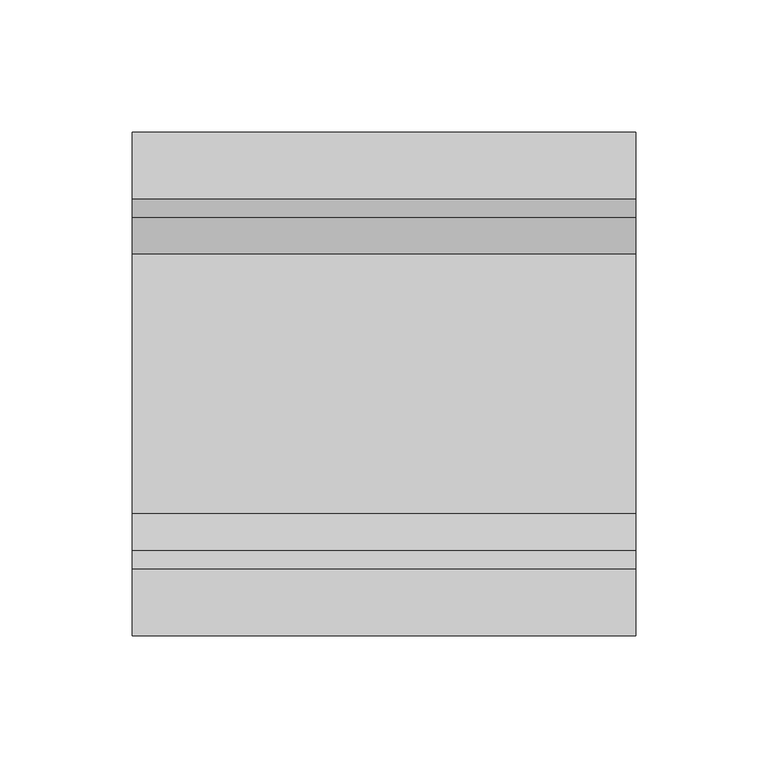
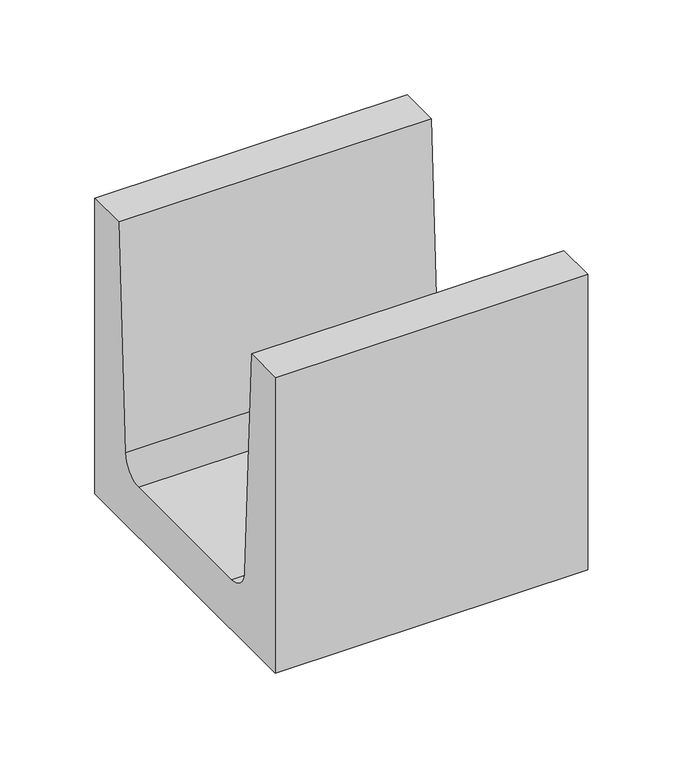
"""IFC4 building model written with IfcOpenShell, lengths in millimetres: proxy geometry, Bloco de Concreto - Meia Canaleta : Família 20 x 40 - Classe A."""

from ifc_helpers import new_model, si_unit, point, frame, frame_2d, origin, place, context, project, spatial, polyline, circle_curve, trimmed, segment, composite_curve, outline, extrude, source, transform, mapped, element, save


def generic_models_a9bd6234(model_context):
    return source(origin(), model_context, "Body", "SweptSolid", [
        extrude(outline(composite_curve([segment(polyline([(95.0, 0.0), (-95.0, 0.0), (-95.0, 190.0), (-70.0, 190.0), (-63.0, 46.1466668)]), True, "CONTINUOUS"), segment(trimmed(circle_curve(frame_2d((-48.8533332, 46.1466668)), 14.1466668), [point((-63.0, 46.1466668))], [point((-48.8533332, 32.0))], True, "CARTESIAN"), True, "CONTINUOUS"), segment(polyline([(-48.8533332, 32.0), (49.0277456, 32.0)]), True, "CONTINUOUS"), segment(trimmed(circle_curve(frame_2d((49.0277456, 45.9722544)), 13.9722544), [point((49.0277456, 32.0))], [point((63.0, 45.9722544))], True, "CARTESIAN"), True, "CONTINUOUS"), segment(polyline([(63.0, 45.9722544), (70.0, 190.0), (95.0, 190.0), (95.0, 0.0)]), True, "CONTINUOUS")], self_intersect=False)), frame((-95.0, 0.0, 0.0), z_axis=(1.0, 0.0, 0.0), x_axis=(0.0, 1.0, 0.0)), (0.0, 0.0, 1.0), 190.0),
    ])


if __name__ == "__main__":
    model = new_model("IFC4")
    model_context = context("Model", 3, world=origin())
    ifc_project = project(units=[si_unit("LENGTHUNIT", "METRE", prefix="MILLI")], contexts=[model_context])
    site = spatial("IfcSite", under=ifc_project)
    building = spatial("IfcBuilding", under=site)
    placement = place(None, origin())
    generic_models_shape = generic_models_a9bd6234(model_context)
    element("IfcBuildingElementProxy", 1, Name="Bloco de Concreto - Meia Canaleta : Família 20 x 40 - Classe A", ObjectType="Bloco de Concreto - Meia Canaleta : Família 20 x 40 - Classe A", at=placement, inside=building, context=model_context, shape_type="MappedRepresentation", body=[
        mapped(generic_models_shape, transform((0.0, 0.0, 0.0), x_axis=(1.0, 0.0, 0.0), y_axis=(0.0, 1.0, 0.0), z_axis=(0.0, 0.0, 1.0))),
    ])
    save(model, "model.ifc")
